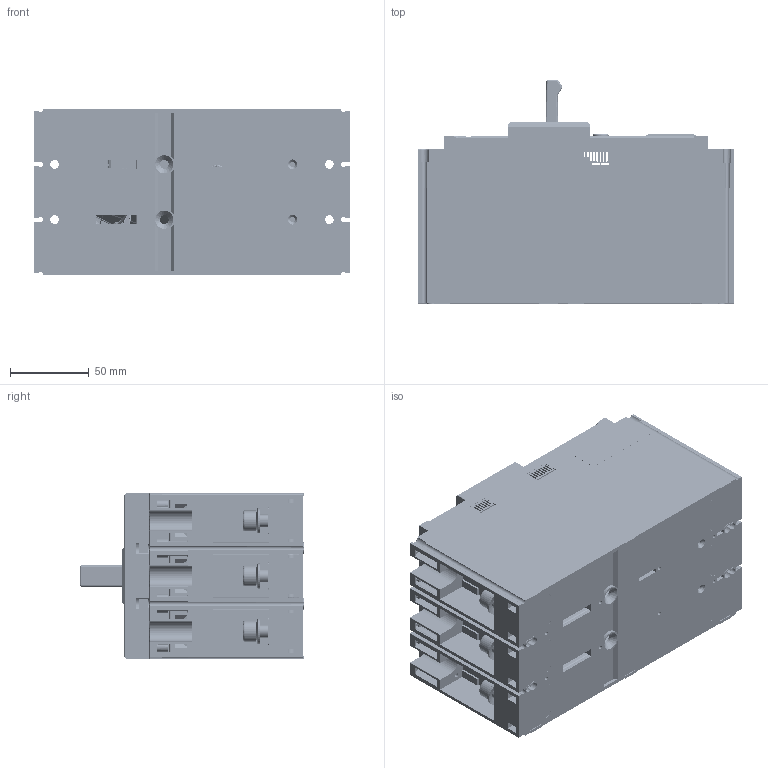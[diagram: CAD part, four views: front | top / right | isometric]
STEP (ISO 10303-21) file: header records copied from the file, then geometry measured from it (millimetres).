
FILE_DESCRIPTION (( 'STEP AP214' ), '1' );
FILE_NAME ('MNX250U_R_3P ﾈﾇﾌ.STEP', '2024-12-04T11:00:57', ( '' ), ( '' ), 'SwSTEP 2.0', 'SolidWorks 2022', '' );
FILE_SCHEMA (( 'AUTOMOTIVE_DESIGN' ));
Length unit declared in the file: millimetre
Products named in the file (1): MNX250U_R_3P ИЗМ
Bounding box: 200.07 x 142.16 x 105 mm (x, y, z)
Volume: 682222.2 mm3; surface area: 633054.1 mm2
Topology: 54 solids, 55 shells, 15304 faces, 42110 edges, 27157 vertices
Faces by surface type: plane 8356, cylinder 4611, bspline 2145, cone 192
Full cylindrical faces by diameter (mm): 30 x1
Entity records: 583174 total; most frequent: CARTESIAN_POINT 206870, ORIENTED_EDGE 83860, DIRECTION 70693, EDGE_CURVE 41930, LINE 27837, VECTOR 27837, VERTEX_POINT 27020, AXIS2_PLACEMENT_3D 21428
